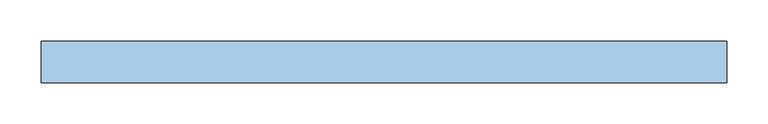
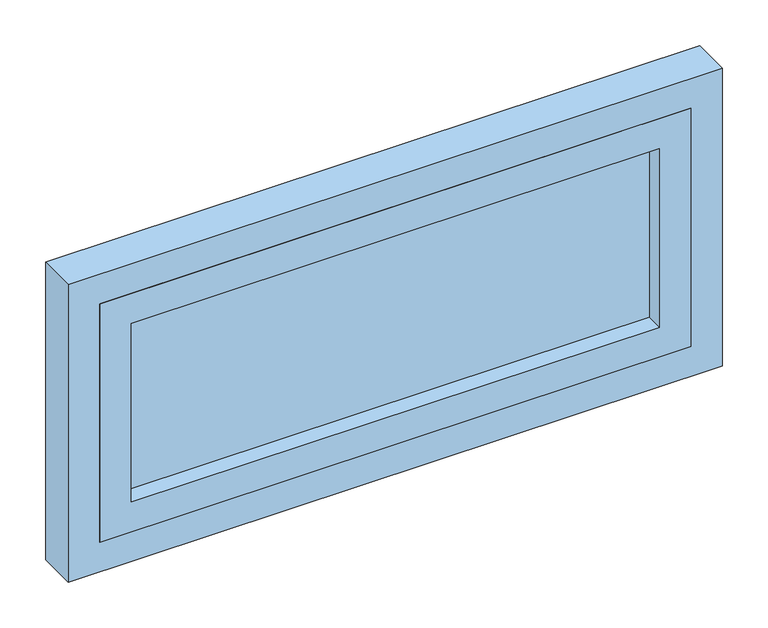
"""IFC4 building model written with IfcOpenShell, lengths in millimetres: window geometry, VENT_ALUM_PROY : VD-13b / PROY BAÑO 0.83 X 0.4."""

from ifc_helpers import new_model, si_unit, frame, origin, place, context, project, spatial, polyline, outline, extrude, source, transform, mapped, element, save


def window_f1274c2c(model_context):
    return source(origin(), model_context, "Body", "SweptSolid", [
        extrude(outline(polyline([(840.0, -375.0), (840.0, 375.0), (1160.0, 375.0), (1160.0, -375.0), (840.0, -375.0)]), holes=[polyline([(1120.0, -335.0), (1120.0, 335.0), (880.0, 335.0), (880.0, -335.0), (1120.0, -335.0)])]), frame((0.0, -25.0, 0.0), z_axis=(0.0, 1.0, 0.0), x_axis=(0.0, 0.0, 1.0)), (0.0, 0.0, 1.0), 50.0),
        extrude(outline(polyline([(335.0, -3.0), (-335.0, -3.0), (-335.0, 3.0), (335.0, 3.0), (335.0, -3.0)])), frame((0.0, 0.0, 880.0), z_axis=(0.0, 0.0, 1.0), x_axis=(1.0, 0.0, 0.0)), (0.0, 0.0, 1.0), 240.0),
        extrude(outline(polyline([(800.0, -415.0), (800.0, 415.0), (1200.0, 415.0), (1200.0, -415.0), (800.0, -415.0)]), holes=[polyline([(1160.0, -375.0), (1160.0, 375.0), (840.0, 375.0), (840.0, -375.0), (1160.0, -375.0)])]), frame((0.0, -25.0, 0.0), z_axis=(0.0, 1.0, 0.0), x_axis=(0.0, 0.0, 1.0)), (0.0, 0.0, 1.0), 50.0),
    ])


if __name__ == "__main__":
    model = new_model("IFC4")
    model_context = context("Model", 3, world=origin())
    ifc_project = project(units=[si_unit("LENGTHUNIT", "METRE", prefix="MILLI")], contexts=[model_context])
    site = spatial("IfcSite", under=ifc_project)
    building = spatial("IfcBuilding", under=site)
    placement = place(None, origin())
    window_shape = window_f1274c2c(model_context)
    element("IfcWindow", 1, ObjectType="VENT_ALUM_PROY : VD-13b / PROY BAÑO 0.83 X 0.4", at=placement, inside=building, context=model_context, shape_type="MappedRepresentation", body=[
        mapped(window_shape, transform((0.0, 0.0, 0.0), x_axis=(1.0, 0.0, 0.0), y_axis=(0.0, 1.0, 0.0), z_axis=(0.0, 0.0, 1.0))),
    ])
    save(model, "model.ifc")
